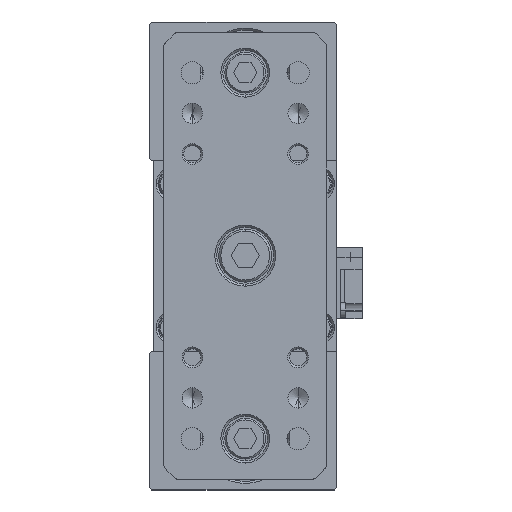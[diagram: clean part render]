
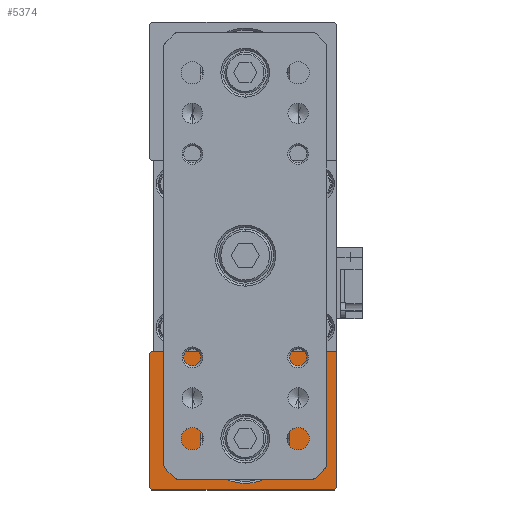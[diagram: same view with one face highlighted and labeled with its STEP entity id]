
A CAD part, top view. The second image highlights one B-rep face of the part: STEP entity #5374.
In plain terms, the highlighted planar face has unit normal (0, 0, 1).
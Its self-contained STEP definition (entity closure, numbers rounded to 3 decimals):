
#151 = EDGE_CURVE ( 'NONE', #21500, #27433, #23135, .T. ) ;
#560 = DIRECTION ( 'NONE',  ( -1., 0., 0. ) ) ;
#812 = EDGE_CURVE ( 'NONE', #21500, #20429, #28452, .T. ) ;
#1078 = DIRECTION ( 'NONE',  ( -1., 0., 0. ) ) ;
#1587 = CARTESIAN_POINT ( 'NONE',  ( -23.5, -24., 211. ) ) ;
#1787 = VERTEX_POINT ( 'NONE', #2197 ) ;
#1824 = CARTESIAN_POINT ( 'NONE',  ( -23., -57.5, 211. ) ) ;
#2197 = CARTESIAN_POINT ( 'NONE',  ( 22.5, -23.5, 211. ) ) ;
#2287 = ORIENTED_EDGE ( 'NONE', *, *, #19741, .T. ) ;
#2441 = LINE ( 'NONE', #10484, #28736 ) ;
#2602 = VECTOR ( 'NONE', #26062, 1000. ) ;
#2926 = CARTESIAN_POINT ( 'NONE',  ( 0., -45., 211. ) ) ;
#3140 = EDGE_CURVE ( 'NONE', #9754, #20429, #3631, .T. ) ;
#3631 = LINE ( 'NONE', #30914, #29101 ) ;
#3689 = CARTESIAN_POINT ( 'NONE',  ( -23., -23.5, 211. ) ) ;
#3832 = EDGE_CURVE ( 'NONE', #9754, #7926, #8992, .T. ) ;
#5084 = ORIENTED_EDGE ( 'NONE', *, *, #3140, .F. ) ;
#5374 = ADVANCED_FACE ( 'NONE', ( #22442, #15879 ), #30654, .F. ) ;
#5442 = DIRECTION ( 'NONE',  ( -1., 0., 0. ) ) ;
#5718 = VECTOR ( 'NONE', #5810, 1000. ) ;
#5735 = DIRECTION ( 'NONE',  ( -0.707, -0.707, 0. ) ) ;
#5810 = DIRECTION ( 'NONE',  ( 0., 1., 0. ) ) ;
#6234 = CARTESIAN_POINT ( 'NONE',  ( 22.5, -57., 211. ) ) ;
#6343 = CARTESIAN_POINT ( 'NONE',  ( -23.5, -57.5, 211. ) ) ;
#6902 = AXIS2_PLACEMENT_3D ( 'NONE', #10960, #15930, #1078 ) ;
#6928 = VECTOR ( 'NONE', #5735, 1000. ) ;
#7926 = VERTEX_POINT ( 'NONE', #6234 ) ;
#8992 = LINE ( 'NONE', #24079, #27887 ) ;
#9754 = VERTEX_POINT ( 'NONE', #17160 ) ;
#9858 = EDGE_LOOP ( 'NONE', ( #2287, #25638 ) ) ;
#10209 = CIRCLE ( 'NONE', #30794, 11. ) ;
#10484 = CARTESIAN_POINT ( 'NONE',  ( 22.5, -23.5, 211. ) ) ;
#10729 = ORIENTED_EDGE ( 'NONE', *, *, #812, .T. ) ;
#10738 = CIRCLE ( 'NONE', #25064, 11. ) ;
#10960 = CARTESIAN_POINT ( 'NONE',  ( 22.5, -57.5, 211. ) ) ;
#11946 = ORIENTED_EDGE ( 'NONE', *, *, #151, .F. ) ;
#13497 = LINE ( 'NONE', #27830, #6928 ) ;
#14226 = ORIENTED_EDGE ( 'NONE', *, *, #17575, .T. ) ;
#15420 = DIRECTION ( 'NONE',  ( 0., 0., -1. ) ) ;
#15786 = VERTEX_POINT ( 'NONE', #31673 ) ;
#15879 = FACE_OUTER_BOUND ( 'NONE', #25340, .T. ) ;
#15930 = DIRECTION ( 'NONE',  ( 0., 0., -1. ) ) ;
#17160 = CARTESIAN_POINT ( 'NONE',  ( 22., -57.5, 211. ) ) ;
#17377 = VERTEX_POINT ( 'NONE', #19769 ) ;
#17575 = EDGE_CURVE ( 'NONE', #7926, #1787, #18873, .T. ) ;
#18315 = CARTESIAN_POINT ( 'NONE',  ( -23.5, -57., 211. ) ) ;
#18510 = CARTESIAN_POINT ( 'NONE',  ( -23., -57.5, 211. ) ) ;
#18873 = LINE ( 'NONE', #25553, #5718 ) ;
#19741 = EDGE_CURVE ( 'NONE', #17377, #15786, #10738, .T. ) ;
#19769 = CARTESIAN_POINT ( 'NONE',  ( 11., -45., 211. ) ) ;
#20233 = DIRECTION ( 'NONE',  ( 0., 0., -1. ) ) ;
#20275 = DIRECTION ( 'NONE',  ( -1., 0., 0. ) ) ;
#20429 = VERTEX_POINT ( 'NONE', #18510 ) ;
#20505 = ORIENTED_EDGE ( 'NONE', *, *, #3832, .T. ) ;
#21131 = DIRECTION ( 'NONE',  ( -1., 0., 0. ) ) ;
#21157 = VECTOR ( 'NONE', #24111, 1000. ) ;
#21500 = VERTEX_POINT ( 'NONE', #18315 ) ;
#22442 = FACE_BOUND ( 'NONE', #9858, .T. ) ;
#23135 = LINE ( 'NONE', #6343, #2602 ) ;
#24079 = CARTESIAN_POINT ( 'NONE',  ( 22., -57.5, 211. ) ) ;
#24111 = DIRECTION ( 'NONE',  ( 0.707, -0.707, 0. ) ) ;
#25064 = AXIS2_PLACEMENT_3D ( 'NONE', #30158, #15420, #560 ) ;
#25340 = EDGE_LOOP ( 'NONE', ( #29865, #30529, #11946, #10729, #5084, #20505, #14226 ) ) ;
#25553 = CARTESIAN_POINT ( 'NONE',  ( 22.5, -57.5, 211. ) ) ;
#25638 = ORIENTED_EDGE ( 'NONE', *, *, #27148, .T. ) ;
#26062 = DIRECTION ( 'NONE',  ( 0., 1., 0. ) ) ;
#26493 = EDGE_CURVE ( 'NONE', #1787, #27367, #2441, .T. ) ;
#27148 = EDGE_CURVE ( 'NONE', #15786, #17377, #10209, .T. ) ;
#27367 = VERTEX_POINT ( 'NONE', #3689 ) ;
#27433 = VERTEX_POINT ( 'NONE', #1587 ) ;
#27830 = CARTESIAN_POINT ( 'NONE',  ( -23.5, -24., 211. ) ) ;
#27887 = VECTOR ( 'NONE', #29012, 1000. ) ;
#28452 = LINE ( 'NONE', #1824, #21157 ) ;
#28736 = VECTOR ( 'NONE', #20275, 1000. ) ;
#29012 = DIRECTION ( 'NONE',  ( 0.707, 0.707, 0. ) ) ;
#29101 = VECTOR ( 'NONE', #21131, 1000. ) ;
#29460 = EDGE_CURVE ( 'NONE', #27367, #27433, #13497, .T. ) ;
#29865 = ORIENTED_EDGE ( 'NONE', *, *, #26493, .T. ) ;
#30158 = CARTESIAN_POINT ( 'NONE',  ( 0., -45., 211. ) ) ;
#30529 = ORIENTED_EDGE ( 'NONE', *, *, #29460, .T. ) ;
#30654 = PLANE ( 'NONE',  #6902 ) ;
#30794 = AXIS2_PLACEMENT_3D ( 'NONE', #2926, #20233, #5442 ) ;
#30914 = CARTESIAN_POINT ( 'NONE',  ( 22.5, -57.5, 211. ) ) ;
#31673 = CARTESIAN_POINT ( 'NONE',  ( -11., -45., 211. ) ) ;
